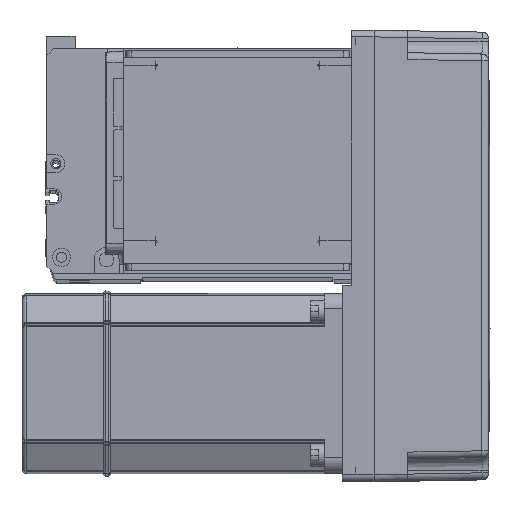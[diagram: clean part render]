
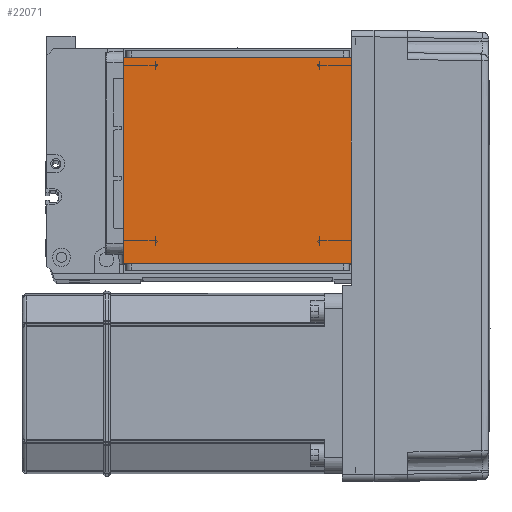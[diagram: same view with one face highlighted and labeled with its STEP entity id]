
A CAD part, top view. The second image highlights one B-rep face of the part: STEP entity #22071.
In plain terms, the highlighted planar face has unit normal (0, 0, 1).
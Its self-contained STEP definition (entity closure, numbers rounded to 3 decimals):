
#3149 = CARTESIAN_POINT ( 'NONE',  ( 50.5, 111.5, 115. ) ) ;
#4344 = LINE ( 'NONE', #44191, #31210 ) ;
#4419 = EDGE_CURVE ( 'NONE', #55056, #47851, #9435, .T. ) ;
#5375 = FACE_OUTER_BOUND ( 'NONE', #38474, .T. ) ;
#6616 = DIRECTION ( 'NONE',  ( 0., 1., 0. ) ) ;
#9435 = LINE ( 'NONE', #28199, #39121 ) ;
#10395 = CARTESIAN_POINT ( 'NONE',  ( -50.5, 20., 115. ) ) ;
#10440 = PLANE ( 'NONE',  #23872 ) ;
#11015 = ORIENTED_EDGE ( 'NONE', *, *, #22075, .T. ) ;
#15115 = CARTESIAN_POINT ( 'NONE',  ( 0., 0., 115. ) ) ;
#18131 = ORIENTED_EDGE ( 'NONE', *, *, #4419, .F. ) ;
#18323 = DIRECTION ( 'NONE',  ( 0., -1., 0. ) ) ;
#20099 = DIRECTION ( 'NONE',  ( 1., 0., 0. ) ) ;
#20489 = CARTESIAN_POINT ( 'NONE',  ( 50.5, 122., 115. ) ) ;
#20793 = VECTOR ( 'NONE', #23142, 1000. ) ;
#22071 = ADVANCED_FACE ( 'NONE', ( #5375 ), #10440, .T. ) ;
#22075 = EDGE_CURVE ( 'NONE', #48873, #47851, #25428, .T. ) ;
#23142 = DIRECTION ( 'NONE',  ( -1., 0., 0. ) ) ;
#23872 = AXIS2_PLACEMENT_3D ( 'NONE', #15115, #41324, #45791 ) ;
#24924 = VERTEX_POINT ( 'NONE', #10395 ) ;
#25428 = LINE ( 'NONE', #20489, #44029 ) ;
#26324 = LINE ( 'NONE', #36415, #20793 ) ;
#28199 = CARTESIAN_POINT ( 'NONE',  ( -70.004, 111.5, 115. ) ) ;
#31210 = VECTOR ( 'NONE', #18323, 1000. ) ;
#34491 = CARTESIAN_POINT ( 'NONE',  ( 50.5, 20., 115. ) ) ;
#36415 = CARTESIAN_POINT ( 'NONE',  ( -70.004, 20., 115. ) ) ;
#36888 = EDGE_CURVE ( 'NONE', #55056, #24924, #4344, .T. ) ;
#38474 = EDGE_LOOP ( 'NONE', ( #18131, #42769, #56686, #11015 ) ) ;
#39121 = VECTOR ( 'NONE', #20099, 1000. ) ;
#41324 = DIRECTION ( 'NONE',  ( 0., 0., 1. ) ) ;
#42769 = ORIENTED_EDGE ( 'NONE', *, *, #36888, .T. ) ;
#44029 = VECTOR ( 'NONE', #6616, 1000. ) ;
#44191 = CARTESIAN_POINT ( 'NONE',  ( -50.5, 122., 115. ) ) ;
#45791 = DIRECTION ( 'NONE',  ( 1., 0., 0. ) ) ;
#47851 = VERTEX_POINT ( 'NONE', #3149 ) ;
#48873 = VERTEX_POINT ( 'NONE', #34491 ) ;
#54259 = CARTESIAN_POINT ( 'NONE',  ( -50.5, 111.5, 115. ) ) ;
#55056 = VERTEX_POINT ( 'NONE', #54259 ) ;
#55138 = EDGE_CURVE ( 'NONE', #48873, #24924, #26324, .T. ) ;
#56686 = ORIENTED_EDGE ( 'NONE', *, *, #55138, .F. ) ;
